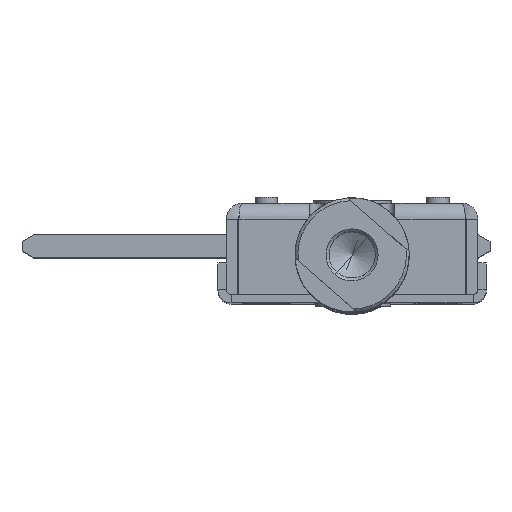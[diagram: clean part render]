
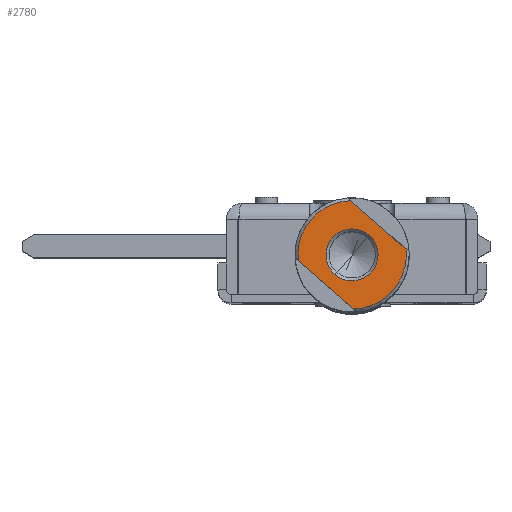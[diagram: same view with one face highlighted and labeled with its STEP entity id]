
A CAD part, top view. The second image highlights one B-rep face of the part: STEP entity #2780.
In plain terms, the highlighted planar face has unit normal (0, 0, 1).
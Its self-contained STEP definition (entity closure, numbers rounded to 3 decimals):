
#392 = VECTOR ( 'NONE', #4639, 1000. ) ;
#725 = DIRECTION ( 'NONE',  ( 0., 0., 1. ) ) ;
#746 = LINE ( 'NONE', #1188, #18397 ) ;
#825 = FACE_BOUND ( 'NONE', #11408, .T. ) ;
#864 = EDGE_CURVE ( 'NONE', #14188, #5997, #10844, .T. ) ;
#1188 = CARTESIAN_POINT ( 'NONE',  ( 7., -10., 16. ) ) ;
#2135 = ORIENTED_EDGE ( 'NONE', *, *, #4670, .T. ) ;
#2276 = AXIS2_PLACEMENT_3D ( 'NONE', #9855, #725, #13521 ) ;
#2780 = ADVANCED_FACE ( 'NONE', ( #825, #5109 ), #13453, .T. ) ;
#2847 = CARTESIAN_POINT ( 'NONE',  ( 0., 0., 16. ) ) ;
#4639 = DIRECTION ( 'NONE',  ( 0., 1., 0. ) ) ;
#4670 = EDGE_CURVE ( 'NONE', #16934, #14188, #746, .T. ) ;
#4682 = DIRECTION ( 'NONE',  ( 1., 0., 0. ) ) ;
#4905 = ORIENTED_EDGE ( 'NONE', *, *, #11111, .T. ) ;
#4938 = CARTESIAN_POINT ( 'NONE',  ( -7., -6.423, 16. ) ) ;
#5109 = FACE_OUTER_BOUND ( 'NONE', #8203, .T. ) ;
#5490 = ORIENTED_EDGE ( 'NONE', *, *, #8486, .F. ) ;
#5997 = VERTEX_POINT ( 'NONE', #19387 ) ;
#6344 = ORIENTED_EDGE ( 'NONE', *, *, #9460, .T. ) ;
#6386 = CARTESIAN_POINT ( 'NONE',  ( 0., 0., 16. ) ) ;
#6780 = CARTESIAN_POINT ( 'NONE',  ( 0., 0., 16. ) ) ;
#6866 = DIRECTION ( 'NONE',  ( 1., 0., 0. ) ) ;
#6890 = DIRECTION ( 'NONE',  ( 0., 0., 1. ) ) ;
#8044 = ORIENTED_EDGE ( 'NONE', *, *, #864, .T. ) ;
#8203 = EDGE_LOOP ( 'NONE', ( #5490, #8448, #2135, #8044 ) ) ;
#8224 = DIRECTION ( 'NONE',  ( 1., 0., 0. ) ) ;
#8448 = ORIENTED_EDGE ( 'NONE', *, *, #14069, .T. ) ;
#8486 = EDGE_CURVE ( 'NONE', #14274, #5997, #19689, .T. ) ;
#9460 = EDGE_CURVE ( 'NONE', #10347, #16683, #14077, .T. ) ;
#9620 = CARTESIAN_POINT ( 'NONE',  ( 0., 0., 16. ) ) ;
#9855 = CARTESIAN_POINT ( 'NONE',  ( 0., 0., 16. ) ) ;
#10347 = VERTEX_POINT ( 'NONE', #15588 ) ;
#10844 = CIRCLE ( 'NONE', #15974, 9.5 ) ;
#11111 = EDGE_CURVE ( 'NONE', #16683, #10347, #14305, .T. ) ;
#11408 = EDGE_LOOP ( 'NONE', ( #6344, #4905 ) ) ;
#11457 = DIRECTION ( 'NONE',  ( 1., 0., 0. ) ) ;
#13453 = PLANE ( 'NONE',  #2276 ) ;
#13521 = DIRECTION ( 'NONE',  ( 1., 0., 0. ) ) ;
#14069 = EDGE_CURVE ( 'NONE', #14274, #16934, #21247, .T. ) ;
#14077 = CIRCLE ( 'NONE', #14284, 4.55 ) ;
#14188 = VERTEX_POINT ( 'NONE', #22877 ) ;
#14274 = VERTEX_POINT ( 'NONE', #4938 ) ;
#14284 = AXIS2_PLACEMENT_3D ( 'NONE', #2847, #15606, #4682 ) ;
#14305 = CIRCLE ( 'NONE', #20883, 4.55 ) ;
#14390 = CARTESIAN_POINT ( 'NONE',  ( -4.55, 0., 16. ) ) ;
#15378 = AXIS2_PLACEMENT_3D ( 'NONE', #6386, #19066, #8224 ) ;
#15588 = CARTESIAN_POINT ( 'NONE',  ( 4.55, 0., 16. ) ) ;
#15606 = DIRECTION ( 'NONE',  ( 0., 0., -1. ) ) ;
#15974 = AXIS2_PLACEMENT_3D ( 'NONE', #6780, #6890, #6866 ) ;
#16683 = VERTEX_POINT ( 'NONE', #14390 ) ;
#16934 = VERTEX_POINT ( 'NONE', #21335 ) ;
#17350 = CARTESIAN_POINT ( 'NONE',  ( -7., -10., 16. ) ) ;
#18397 = VECTOR ( 'NONE', #21093, 1000. ) ;
#19066 = DIRECTION ( 'NONE',  ( 0., 0., 1. ) ) ;
#19387 = CARTESIAN_POINT ( 'NONE',  ( -7., 6.423, 16. ) ) ;
#19689 = LINE ( 'NONE', #17350, #392 ) ;
#20883 = AXIS2_PLACEMENT_3D ( 'NONE', #9620, #22212, #11457 ) ;
#21093 = DIRECTION ( 'NONE',  ( 0., 1., 0. ) ) ;
#21247 = CIRCLE ( 'NONE', #15378, 9.5 ) ;
#21335 = CARTESIAN_POINT ( 'NONE',  ( 7., -6.423, 16. ) ) ;
#22212 = DIRECTION ( 'NONE',  ( 0., 0., -1. ) ) ;
#22877 = CARTESIAN_POINT ( 'NONE',  ( 7., 6.423, 16. ) ) ;
